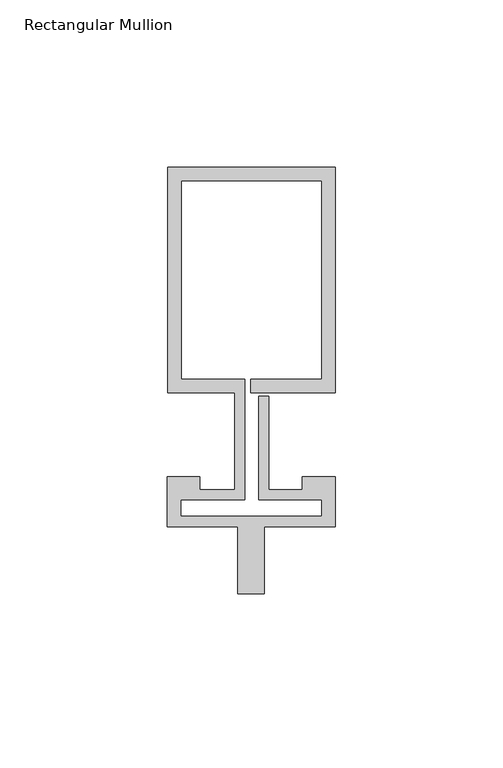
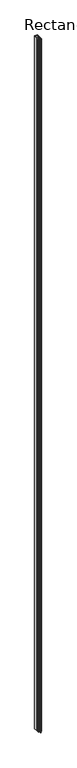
"""IFC4 building model written with IfcOpenShell, lengths in millimetres: member geometry, Rectangular Mullion : Reynaers_CW-50_Mullion-Transom_Horizontal_67.4mm_Facecap-06A."""

from ifc_helpers import new_model, si_unit, frame, origin, place, context, project, spatial, polyline, outline, extrude, source, transform, mapped, element, save


def rectangular_mullion_ec071061(model_context):
    return source(origin(), model_context, "Body", "SweptSolid", [
        extrude(outline(polyline([(-24.8004059, 79.9), (25.1995941, 79.9), (25.1995941, 12.5), (0.0, 12.5), (0.0, 16.5), (21.1995941, 16.5), (21.1995941, 75.9), (-20.8004059, 75.9), (-20.8004059, 16.5), (-1.9004059, 16.5), (-1.9004059, -19.5), (-20.994845, -19.5), (-20.994845, -24.4191338), (21.1995941, -24.4191338), (21.1995941, -19.5), (2.2995941, -19.5), (2.2995941, 11.5), (5.2995941, 11.5), (5.2995941, -16.5), (15.2996495, -16.5), (15.2996495, -12.5), (25.1995941, -12.5), (25.1995941, -27.5), (4.004855, -27.5), (4.004855, -47.5), (-3.995145, -47.5), (-3.995145, -27.5), (-24.994845, -27.5), (-24.994845, -12.5), (-15.2996495, -12.5), (-15.2996495, -16.5), (-4.9004059, -16.5), (-4.9004059, 12.5), (-24.8004059, 12.5), (-24.8004059, 79.9)])), frame((0.0, 0.0, -12000.0), z_axis=(0.0, 0.0, 1.0), x_axis=(1.0, 0.0, 0.0)), (0.0, 0.0, 1.0), 12000.0),
    ])


if __name__ == "__main__":
    model = new_model("IFC4")
    model_context = context("Model", 3, world=origin())
    ifc_project = project(units=[si_unit("LENGTHUNIT", "METRE", prefix="MILLI")], contexts=[model_context])
    site = spatial("IfcSite", under=ifc_project)
    building = spatial("IfcBuilding", under=site)
    placement = place(None, origin())
    rectangular_mullion_shape = rectangular_mullion_ec071061(model_context)
    element("IfcMember", 1, ObjectType="Rectangular Mullion : Reynaers_CW-50_Mullion-Transom_Horizontal_67.4mm_Facecap-06A", at=placement, inside=building, context=model_context, shape_type="MappedRepresentation", body=[
        mapped(rectangular_mullion_shape, transform((0.0, 0.0, 0.0), x_axis=(1.0, 0.0, 0.0), y_axis=(0.0, 1.0, 0.0), z_axis=(0.0, 0.0, 1.0))),
    ])
    save(model, "model.ifc")
